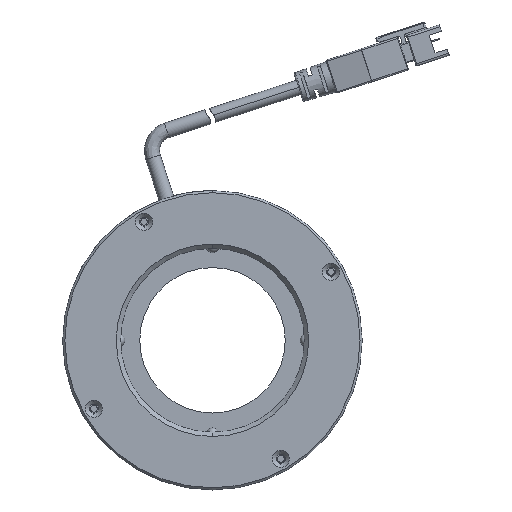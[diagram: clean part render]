
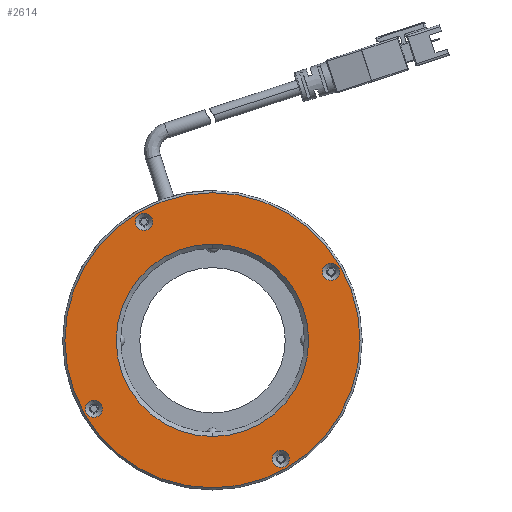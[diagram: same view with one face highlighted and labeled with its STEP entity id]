
A CAD part, front view. The second image highlights one B-rep face of the part: STEP entity #2614.
In plain terms, the highlighted planar face has unit normal (0, -1, 0).
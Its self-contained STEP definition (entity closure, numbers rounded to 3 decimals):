
#64 = EDGE_CURVE ( 'NONE', #2607, #2918, #551, .T. ) ;
#229 = DIRECTION ( 'NONE',  ( 0., -1., 0. ) ) ;
#239 = DIRECTION ( 'NONE',  ( 0., -1., 0. ) ) ;
#276 = VERTEX_POINT ( 'NONE', #7417 ) ;
#435 = VERTEX_POINT ( 'NONE', #8040 ) ;
#527 = DIRECTION ( 'NONE',  ( 0., -1., 0. ) ) ;
#551 = CIRCLE ( 'NONE', #1544, 2. ) ;
#607 = CARTESIAN_POINT ( 'NONE',  ( -27.713, -9., -16. ) ) ;
#622 = FACE_BOUND ( 'NONE', #7876, .T. ) ;
#659 = AXIS2_PLACEMENT_3D ( 'NONE', #3274, #239, #3966 ) ;
#760 = AXIS2_PLACEMENT_3D ( 'NONE', #7146, #3181, #4726 ) ;
#785 = CARTESIAN_POINT ( 'NONE',  ( -27.713, -9., -14. ) ) ;
#832 = CIRCLE ( 'NONE', #8198, 2. ) ;
#1006 = VERTEX_POINT ( 'NONE', #4555 ) ;
#1064 = ORIENTED_EDGE ( 'NONE', *, *, #2631, .F. ) ;
#1073 = ORIENTED_EDGE ( 'NONE', *, *, #7449, .F. ) ;
#1087 = CIRCLE ( 'NONE', #760, 22.5 ) ;
#1158 = VERTEX_POINT ( 'NONE', #2929 ) ;
#1386 = ORIENTED_EDGE ( 'NONE', *, *, #6801, .F. ) ;
#1544 = AXIS2_PLACEMENT_3D ( 'NONE', #8633, #229, #7994 ) ;
#1563 = ORIENTED_EDGE ( 'NONE', *, *, #7822, .T. ) ;
#1611 = DIRECTION ( 'NONE',  ( 0., 0., 1. ) ) ;
#1685 = EDGE_CURVE ( 'NONE', #276, #8805, #6169, .T. ) ;
#1689 = CIRCLE ( 'NONE', #5924, 2. ) ;
#1698 = DIRECTION ( 'NONE',  ( 0., -1., 0. ) ) ;
#1751 = CIRCLE ( 'NONE', #1934, 2. ) ;
#1795 = EDGE_LOOP ( 'NONE', ( #6893, #7077 ) ) ;
#1934 = AXIS2_PLACEMENT_3D ( 'NONE', #2885, #6767, #3647 ) ;
#2121 = CARTESIAN_POINT ( 'NONE',  ( -16., -9., 25.713 ) ) ;
#2134 = ORIENTED_EDGE ( 'NONE', *, *, #4187, .T. ) ;
#2340 = DIRECTION ( 'NONE',  ( 0., 0., -1. ) ) ;
#2362 = CARTESIAN_POINT ( 'NONE',  ( -16., -9., 29.713 ) ) ;
#2398 = AXIS2_PLACEMENT_3D ( 'NONE', #5952, #9786, #4484 ) ;
#2452 = DIRECTION ( 'NONE',  ( 0., 1., 0. ) ) ;
#2480 = CIRCLE ( 'NONE', #659, 2. ) ;
#2593 = CIRCLE ( 'NONE', #2398, 22.5 ) ;
#2598 = ORIENTED_EDGE ( 'NONE', *, *, #5466, .F. ) ;
#2607 = VERTEX_POINT ( 'NONE', #6241 ) ;
#2614 = ADVANCED_FACE ( 'NONE', ( #6270, #3021, #622, #6504, #7792, #9698 ), #7024, .T. ) ;
#2621 = VERTEX_POINT ( 'NONE', #2960 ) ;
#2631 = EDGE_CURVE ( 'NONE', #4629, #6352, #1689, .T. ) ;
#2636 = EDGE_CURVE ( 'NONE', #1158, #8384, #8513, .T. ) ;
#2742 = EDGE_LOOP ( 'NONE', ( #3621, #8900 ) ) ;
#2872 = VERTEX_POINT ( 'NONE', #7609 ) ;
#2885 = CARTESIAN_POINT ( 'NONE',  ( 16., -9., -27.713 ) ) ;
#2918 = VERTEX_POINT ( 'NONE', #4144 ) ;
#2929 = CARTESIAN_POINT ( 'NONE',  ( 0., -9., -34.5 ) ) ;
#2960 = CARTESIAN_POINT ( 'NONE',  ( 16., -9., -25.713 ) ) ;
#2996 = DIRECTION ( 'NONE',  ( 0., 0., -1. ) ) ;
#3021 = FACE_BOUND ( 'NONE', #4768, .T. ) ;
#3073 = CARTESIAN_POINT ( 'NONE',  ( -27.713, -9., -16. ) ) ;
#3181 = DIRECTION ( 'NONE',  ( 0., 1., 0. ) ) ;
#3190 = DIRECTION ( 'NONE',  ( 0., 0., 1. ) ) ;
#3220 = CARTESIAN_POINT ( 'NONE',  ( -16., -9., 27.713 ) ) ;
#3274 = CARTESIAN_POINT ( 'NONE',  ( -16., -9., 27.713 ) ) ;
#3621 = ORIENTED_EDGE ( 'NONE', *, *, #1685, .F. ) ;
#3647 = DIRECTION ( 'NONE',  ( 0., 0., -1. ) ) ;
#3966 = DIRECTION ( 'NONE',  ( 0., 0., -1. ) ) ;
#3982 = CARTESIAN_POINT ( 'NONE',  ( -21.5, -9., 0. ) ) ;
#4144 = CARTESIAN_POINT ( 'NONE',  ( 27.713, -9., 18. ) ) ;
#4187 = EDGE_CURVE ( 'NONE', #2872, #1006, #1087, .T. ) ;
#4484 = DIRECTION ( 'NONE',  ( 0., 0., -1. ) ) ;
#4542 = AXIS2_PLACEMENT_3D ( 'NONE', #9310, #2452, #3190 ) ;
#4544 = DIRECTION ( 'NONE',  ( 0., -1., 0. ) ) ;
#4555 = CARTESIAN_POINT ( 'NONE',  ( 0., -9., 22.5 ) ) ;
#4629 = VERTEX_POINT ( 'NONE', #2362 ) ;
#4726 = DIRECTION ( 'NONE',  ( 0., 0., -1. ) ) ;
#4768 = EDGE_LOOP ( 'NONE', ( #8755, #2598 ) ) ;
#4868 = AXIS2_PLACEMENT_3D ( 'NONE', #3073, #4544, #7726 ) ;
#5309 = DIRECTION ( 'NONE',  ( 0., -1., 0. ) ) ;
#5466 = EDGE_CURVE ( 'NONE', #2918, #2607, #832, .T. ) ;
#5745 = AXIS2_PLACEMENT_3D ( 'NONE', #607, #8260, #2996 ) ;
#5924 = AXIS2_PLACEMENT_3D ( 'NONE', #3220, #8491, #6930 ) ;
#5952 = CARTESIAN_POINT ( 'NONE',  ( 0., -9., 0. ) ) ;
#6125 = EDGE_CURVE ( 'NONE', #8805, #276, #6223, .T. ) ;
#6169 = CIRCLE ( 'NONE', #5745, 2. ) ;
#6223 = CIRCLE ( 'NONE', #4868, 2. ) ;
#6241 = CARTESIAN_POINT ( 'NONE',  ( 27.713, -9., 14. ) ) ;
#6270 = FACE_BOUND ( 'NONE', #6717, .T. ) ;
#6352 = VERTEX_POINT ( 'NONE', #2121 ) ;
#6504 = FACE_BOUND ( 'NONE', #2742, .T. ) ;
#6717 = EDGE_LOOP ( 'NONE', ( #1073, #1064 ) ) ;
#6767 = DIRECTION ( 'NONE',  ( 0., -1., 0. ) ) ;
#6781 = EDGE_CURVE ( 'NONE', #435, #2621, #1751, .T. ) ;
#6801 = EDGE_CURVE ( 'NONE', #2621, #435, #9391, .T. ) ;
#6848 = EDGE_LOOP ( 'NONE', ( #2134, #1563 ) ) ;
#6876 = AXIS2_PLACEMENT_3D ( 'NONE', #7453, #527, #7420 ) ;
#6893 = ORIENTED_EDGE ( 'NONE', *, *, #7394, .F. ) ;
#6930 = DIRECTION ( 'NONE',  ( 0., 0., -1. ) ) ;
#7024 = PLANE ( 'NONE',  #9796 ) ;
#7077 = ORIENTED_EDGE ( 'NONE', *, *, #2636, .F. ) ;
#7146 = CARTESIAN_POINT ( 'NONE',  ( 0., -9., 0. ) ) ;
#7394 = EDGE_CURVE ( 'NONE', #8384, #1158, #8923, .T. ) ;
#7417 = CARTESIAN_POINT ( 'NONE',  ( -27.713, -9., -18. ) ) ;
#7420 = DIRECTION ( 'NONE',  ( 0., 0., -1. ) ) ;
#7449 = EDGE_CURVE ( 'NONE', #6352, #4629, #2480, .T. ) ;
#7453 = CARTESIAN_POINT ( 'NONE',  ( 16., -9., -27.713 ) ) ;
#7609 = CARTESIAN_POINT ( 'NONE',  ( 0., -9., -22.5 ) ) ;
#7706 = CARTESIAN_POINT ( 'NONE',  ( 27.713, -9., 16. ) ) ;
#7726 = DIRECTION ( 'NONE',  ( 0., 0., -1. ) ) ;
#7792 = FACE_BOUND ( 'NONE', #6848, .T. ) ;
#7822 = EDGE_CURVE ( 'NONE', #1006, #2872, #2593, .T. ) ;
#7876 = EDGE_LOOP ( 'NONE', ( #8479, #1386 ) ) ;
#7994 = DIRECTION ( 'NONE',  ( 0., 0., -1. ) ) ;
#8040 = CARTESIAN_POINT ( 'NONE',  ( 16., -9., -29.713 ) ) ;
#8198 = AXIS2_PLACEMENT_3D ( 'NONE', #7706, #5309, #2340 ) ;
#8260 = DIRECTION ( 'NONE',  ( 0., -1., 0. ) ) ;
#8384 = VERTEX_POINT ( 'NONE', #9774 ) ;
#8419 = DIRECTION ( 'NONE',  ( 0., 0., -1. ) ) ;
#8479 = ORIENTED_EDGE ( 'NONE', *, *, #6781, .F. ) ;
#8491 = DIRECTION ( 'NONE',  ( 0., -1., 0. ) ) ;
#8513 = CIRCLE ( 'NONE', #4542, 34.5 ) ;
#8542 = DIRECTION ( 'NONE',  ( 0., 1., 0. ) ) ;
#8633 = CARTESIAN_POINT ( 'NONE',  ( 27.713, -9., 16. ) ) ;
#8755 = ORIENTED_EDGE ( 'NONE', *, *, #64, .F. ) ;
#8805 = VERTEX_POINT ( 'NONE', #785 ) ;
#8900 = ORIENTED_EDGE ( 'NONE', *, *, #6125, .F. ) ;
#8923 = CIRCLE ( 'NONE', #9224, 34.5 ) ;
#9224 = AXIS2_PLACEMENT_3D ( 'NONE', #9392, #8542, #1611 ) ;
#9310 = CARTESIAN_POINT ( 'NONE',  ( 0., -9., 0. ) ) ;
#9391 = CIRCLE ( 'NONE', #6876, 2. ) ;
#9392 = CARTESIAN_POINT ( 'NONE',  ( 0., -9., 0. ) ) ;
#9698 = FACE_OUTER_BOUND ( 'NONE', #1795, .T. ) ;
#9774 = CARTESIAN_POINT ( 'NONE',  ( 0., -9., 34.5 ) ) ;
#9786 = DIRECTION ( 'NONE',  ( 0., 1., 0. ) ) ;
#9796 = AXIS2_PLACEMENT_3D ( 'NONE', #3982, #1698, #8419 ) ;
